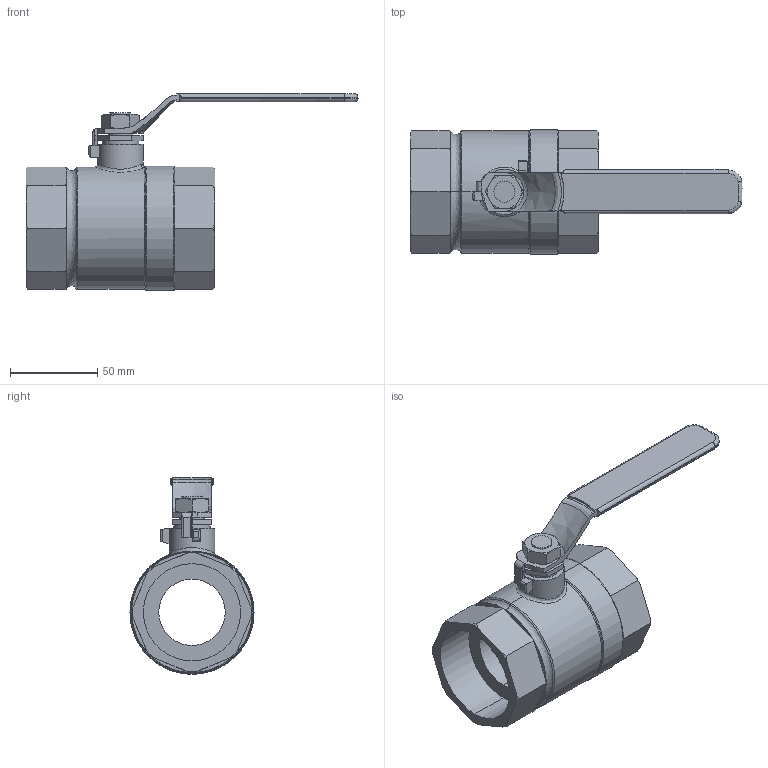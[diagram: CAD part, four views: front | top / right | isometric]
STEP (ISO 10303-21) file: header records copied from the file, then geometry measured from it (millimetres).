
FILE_DESCRIPTION( (''), '2;1');
FILE_NAME ('PC2091.14996.50A_1450.stp','2026-05-28T08:44:11',(''),(''),'spGate 21.9.4 (****-****-****-****)','','');
FILE_SCHEMA (('AUTOMOTIVE_DESIGN'));
Length unit declared in the file: millimetre
Bounding box: 189.99 x 71 x 112.5 mm (x, y, z)
Volume: 243148.4 mm3; surface area: 55757.7 mm2
Topology: 1 solids, 1 shells, 192 faces, 501 edges, 317 vertices
Faces by surface type: plane 85, bspline 57, cylinder 47, sphere 3
Entity records: 10916 total; most frequent: CARTESIAN_POINT 2758, ORIENTED_EDGE 996, DIRECTION 758, COLOUR_RGB 691, PRESENTATION_STYLE_ASSIGNMENT 691, STYLED_ITEM 691, EDGE_CURVE 498, DRAUGHTING_PRE_DEFINED_CURVE_FONT 498
